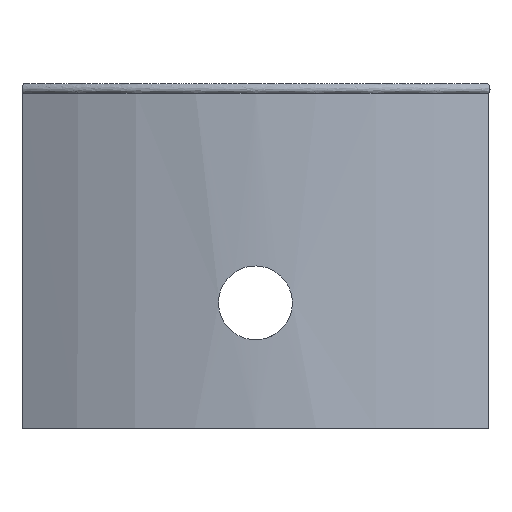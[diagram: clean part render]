
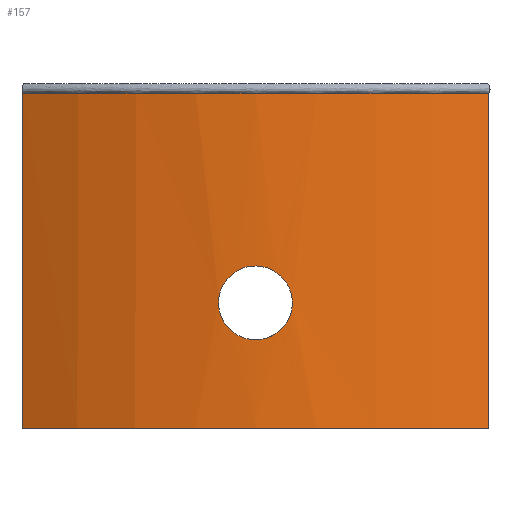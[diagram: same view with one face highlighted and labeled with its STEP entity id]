
A CAD part, left-side view. The second image highlights one B-rep face of the part: STEP entity #157.
In plain terms, the highlighted cylindrical face has radius 135 mm (diameter 270 mm), a partial arc.
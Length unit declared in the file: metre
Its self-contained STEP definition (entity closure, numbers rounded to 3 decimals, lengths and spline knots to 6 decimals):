
#13=CIRCLE('',#181,0.135);
#14=CIRCLE('',#182,0.135);
#15=CIRCLE('',#183,0.135);
#21=CYLINDRICAL_SURFACE('',#180,0.135);
#25=B_SPLINE_CURVE_WITH_KNOTS('',3,(#260,#261,#262,#263,#264,#265,#266,
#267,#268,#269,#270,#271,#272,#273,#274,#275,#276,#277,#278),
 .UNSPECIFIED.,.T.,.F.,(1,1,1,1,1,1,1,1,1,1,1,1,1,1,1,1,1,1,1,1,1,1,1),
(-0.011727,-0.007818,-0.003909,0.,
0.003909,0.007818,0.011727,0.015636,
0.019545,0.023454,0.027363,0.031272,
0.035181,0.03909,0.042999,0.046907,
0.050816,0.054725,0.058634,0.062543,
0.066452,0.070361,0.07427),.UNSPECIFIED.);
#33=ORIENTED_EDGE('',*,*,#75,.T.);
#34=ORIENTED_EDGE('',*,*,#76,.F.);
#35=ORIENTED_EDGE('',*,*,#77,.F.);
#36=ORIENTED_EDGE('',*,*,#74,.T.);
#37=ORIENTED_EDGE('',*,*,#78,.T.);
#38=ORIENTED_EDGE('',*,*,#79,.F.);
#39=ORIENTED_EDGE('',*,*,#80,.T.);
#74=EDGE_CURVE('',#90,#95,#108,.T.);
#75=EDGE_CURVE('',#96,#96,#25,.T.);
#76=EDGE_CURVE('',#97,#98,#109,.T.);
#77=EDGE_CURVE('',#90,#97,#13,.T.);
#78=EDGE_CURVE('',#95,#99,#14,.T.);
#79=EDGE_CURVE('',#100,#99,#110,.T.);
#80=EDGE_CURVE('',#100,#98,#15,.T.);
#90=VERTEX_POINT('',#245);
#95=VERTEX_POINT('',#257);
#96=VERTEX_POINT('',#279);
#97=VERTEX_POINT('',#281);
#98=VERTEX_POINT('',#282);
#99=VERTEX_POINT('',#285);
#100=VERTEX_POINT('',#287);
#108=LINE('',#258,#118);
#109=LINE('',#280,#119);
#110=LINE('',#286,#120);
#118=VECTOR('',#204,1.);
#119=VECTOR('',#207,1.);
#120=VECTOR('',#212,1.);
#125=EDGE_LOOP('',(#33));
#126=EDGE_LOOP('',(#34,#35,#36,#37,#38,#39));
#138=FACE_BOUND('',#125,.T.);
#139=FACE_BOUND('',#126,.T.);
#157=ADVANCED_FACE('',(#138,#139),#21,.T.);
#180=AXIS2_PLACEMENT_3D('',#259,#205,#206);
#181=AXIS2_PLACEMENT_3D('',#283,#208,#209);
#182=AXIS2_PLACEMENT_3D('',#284,#210,#211);
#183=AXIS2_PLACEMENT_3D('',#288,#213,#214);
#204=DIRECTION('',(0.,0.,-1.));
#205=DIRECTION('',(0.,0.,-1.));
#206=DIRECTION('',(-1.,0.,0.));
#207=DIRECTION('',(0.,0.,-1.));
#208=DIRECTION('',(0.,0.,1.));
#209=DIRECTION('',(1.,0.,0.));
#210=DIRECTION('',(0.,0.,1.));
#211=DIRECTION('',(1.,0.,0.));
#212=DIRECTION('',(0.,0.,-1.));
#213=DIRECTION('',(0.,0.,-1.));
#214=DIRECTION('',(-1.,0.,0.));
#245=CARTESIAN_POINT('',(-0.119266,0.06325,0.093));
#257=CARTESIAN_POINT('',(-0.119266,0.06325,0.));
#258=CARTESIAN_POINT('',(-0.119266,0.06325,0.093));
#259=CARTESIAN_POINT('',(0.,0.,0.093));
#260=CARTESIAN_POINT('',(-0.13496,-0.003943,0.024526));
#261=CARTESIAN_POINT('',(-0.13502,0.000003,0.023738));
#262=CARTESIAN_POINT('',(-0.13496,0.00393,0.024523));
#263=CARTESIAN_POINT('',(-0.134815,0.007256,0.026746));
#264=CARTESIAN_POINT('',(-0.134669,0.009477,0.030071));
#265=CARTESIAN_POINT('',(-0.134609,0.01026,0.033994));
#266=CARTESIAN_POINT('',(-0.134669,0.009482,0.03792));
#267=CARTESIAN_POINT('',(-0.134815,0.007259,0.041252));
#268=CARTESIAN_POINT('',(-0.13496,0.003929,0.043478));
#269=CARTESIAN_POINT('',(-0.13502,0.000003,0.04426));
#270=CARTESIAN_POINT('',(-0.13496,-0.003921,0.043481));
#271=CARTESIAN_POINT('',(-0.134815,-0.007248,0.041262));
#272=CARTESIAN_POINT('',(-0.13467,-0.009474,0.037939));
#273=CARTESIAN_POINT('',(-0.134609,-0.010261,0.03401));
#274=CARTESIAN_POINT('',(-0.134669,-0.009482,0.030078));
#275=CARTESIAN_POINT('',(-0.134814,-0.007259,0.026751));
#276=CARTESIAN_POINT('',(-0.13496,-0.003943,0.024526));
#277=CARTESIAN_POINT('',(-0.13502,0.000003,0.023738));
#278=CARTESIAN_POINT('',(-0.13496,0.00393,0.024523));
#279=CARTESIAN_POINT('',(-0.135,0.,0.024));
#280=CARTESIAN_POINT('',(-0.119433,0.062935,0.093));
#281=CARTESIAN_POINT('',(-0.119433,0.062935,0.093));
#282=CARTESIAN_POINT('',(-0.119433,0.062935,0.090793));
#283=CARTESIAN_POINT('',(0.,0.,0.093));
#284=CARTESIAN_POINT('',(0.,0.,0.));
#285=CARTESIAN_POINT('',(-0.119266,-0.06325,0.));
#286=CARTESIAN_POINT('',(-0.119266,-0.06325,0.093));
#287=CARTESIAN_POINT('',(-0.119266,-0.06325,0.090793));
#288=CARTESIAN_POINT('',(0.,0.,0.090793));
